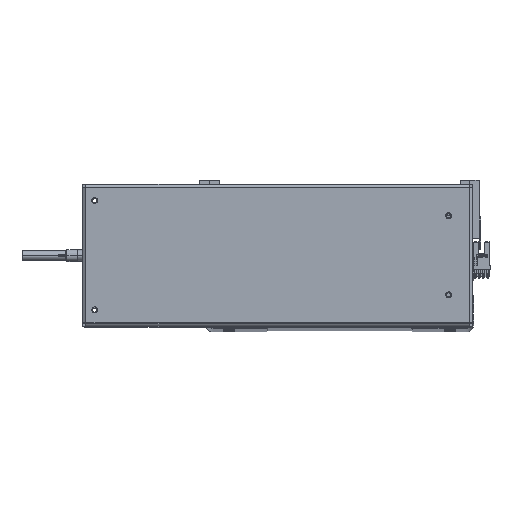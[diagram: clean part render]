
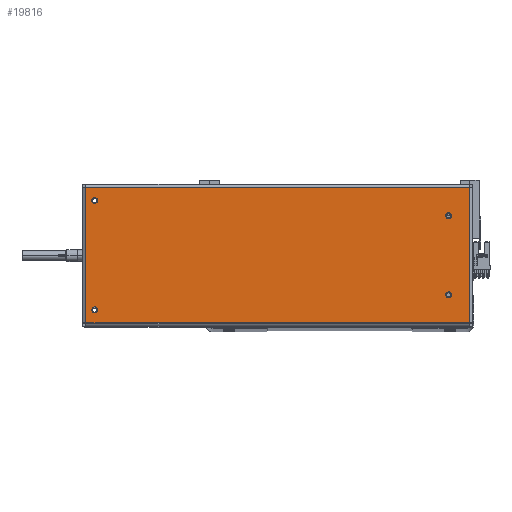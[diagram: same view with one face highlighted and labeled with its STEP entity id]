
A CAD part, top view. The second image highlights one B-rep face of the part: STEP entity #19816.
In plain terms, the highlighted planar face has unit normal (0, 0, 1).
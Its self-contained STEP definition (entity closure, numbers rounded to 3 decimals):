
#72 = VERTEX_POINT ( 'NONE', #17710 ) ;
#101 = EDGE_CURVE ( 'NONE', #24651, #2389, #32990, .T. ) ;
#591 = AXIS2_PLACEMENT_3D ( 'NONE', #16067, #12421, #38647 ) ;
#866 = DIRECTION ( 'NONE',  ( 0., 0., 1. ) ) ;
#1445 = DIRECTION ( 'NONE',  ( 1., 0., 0. ) ) ;
#1488 = CARTESIAN_POINT ( 'NONE',  ( 153., -45., 0. ) ) ;
#1803 = DIRECTION ( 'NONE',  ( 0., 0., 1. ) ) ;
#1862 = CIRCLE ( 'NONE', #19180, 2.5 ) ;
#2151 = AXIS2_PLACEMENT_3D ( 'NONE', #4263, #866, #13654 ) ;
#2389 = VERTEX_POINT ( 'NONE', #21495 ) ;
#3290 = EDGE_CURVE ( 'NONE', #7846, #28780, #4567, .T. ) ;
#3548 = EDGE_CURVE ( 'NONE', #28780, #38012, #34254, .T. ) ;
#4263 = CARTESIAN_POINT ( 'NONE',  ( 150.5, -45., 0. ) ) ;
#4282 = FACE_BOUND ( 'NONE', #22368, .T. ) ;
#4567 = LINE ( 'NONE', #15723, #11565 ) ;
#4802 = DIRECTION ( 'NONE',  ( 0., 0., 1. ) ) ;
#5757 = EDGE_CURVE ( 'NONE', #40851, #72, #26993, .T. ) ;
#5992 = ORIENTED_EDGE ( 'NONE', *, *, #40802, .F. ) ;
#6239 = CIRCLE ( 'NONE', #591, 2.5 ) ;
#6712 = VERTEX_POINT ( 'NONE', #18330 ) ;
#6908 = CIRCLE ( 'NONE', #28540, 2.5 ) ;
#7621 = AXIS2_PLACEMENT_3D ( 'NONE', #11083, #1803, #40228 ) ;
#7654 = CARTESIAN_POINT ( 'NONE',  ( 157.6, -55.6, 0. ) ) ;
#7846 = VERTEX_POINT ( 'NONE', #17519 ) ;
#8118 = CARTESIAN_POINT ( 'NONE',  ( -157.7, -55.6, 0. ) ) ;
#8123 = EDGE_LOOP ( 'NONE', ( #23284, #22532 ) ) ;
#8400 = EDGE_CURVE ( 'NONE', #72, #40851, #38985, .T. ) ;
#9069 = VECTOR ( 'NONE', #26323, 1000. ) ;
#9429 = VERTEX_POINT ( 'NONE', #16497 ) ;
#9837 = AXIS2_PLACEMENT_3D ( 'NONE', #20656, #24042, #1445 ) ;
#10339 = CARTESIAN_POINT ( 'NONE',  ( 148., -45., 0. ) ) ;
#10407 = DIRECTION ( 'NONE',  ( 0., 1., 0. ) ) ;
#10983 = CARTESIAN_POINT ( 'NONE',  ( 157.6, -55.6, 0. ) ) ;
#11083 = CARTESIAN_POINT ( 'NONE',  ( 150.5, -45., 0. ) ) ;
#11398 = VERTEX_POINT ( 'NONE', #25669 ) ;
#11565 = VECTOR ( 'NONE', #15869, 1000. ) ;
#11896 = ORIENTED_EDGE ( 'NONE', *, *, #5757, .F. ) ;
#11959 = CIRCLE ( 'NONE', #2151, 2.5 ) ;
#12421 = DIRECTION ( 'NONE',  ( 0., 0., 1. ) ) ;
#12820 = DIRECTION ( 'NONE',  ( 0., 0., 1. ) ) ;
#13654 = DIRECTION ( 'NONE',  ( 1., 0., 0. ) ) ;
#13813 = EDGE_LOOP ( 'NONE', ( #11896, #24323 ) ) ;
#14321 = VERTEX_POINT ( 'NONE', #1488 ) ;
#14482 = DIRECTION ( 'NONE',  ( 1., 0., 0. ) ) ;
#15723 = CARTESIAN_POINT ( 'NONE',  ( -157.6, 55.6, 0. ) ) ;
#15864 = VECTOR ( 'NONE', #10407, 1000. ) ;
#15869 = DIRECTION ( 'NONE',  ( 0., -1., 0. ) ) ;
#16067 = CARTESIAN_POINT ( 'NONE',  ( -140.5, -32.5, 0. ) ) ;
#16497 = CARTESIAN_POINT ( 'NONE',  ( 157.6, 55.6, 0. ) ) ;
#16796 = EDGE_CURVE ( 'NONE', #2389, #24651, #1862, .T. ) ;
#16862 = FACE_BOUND ( 'NONE', #8123, .T. ) ;
#17109 = EDGE_CURVE ( 'NONE', #18492, #14321, #33531, .T. ) ;
#17519 = CARTESIAN_POINT ( 'NONE',  ( -157.6, 55.6, 0. ) ) ;
#17710 = CARTESIAN_POINT ( 'NONE',  ( -143., 32.5, 0. ) ) ;
#18330 = CARTESIAN_POINT ( 'NONE',  ( -143., -32.5, 0. ) ) ;
#18492 = VERTEX_POINT ( 'NONE', #10339 ) ;
#19151 = CARTESIAN_POINT ( 'NONE',  ( -140.5, -32.5, 0. ) ) ;
#19180 = AXIS2_PLACEMENT_3D ( 'NONE', #38886, #12820, #29232 ) ;
#19542 = PLANE ( 'NONE',  #19848 ) ;
#19816 = ADVANCED_FACE ( 'NONE', ( #16862, #24393, #23365, #4282, #28904 ), #19542, .F. ) ;
#19848 = AXIS2_PLACEMENT_3D ( 'NONE', #35192, #38489, #38627 ) ;
#20656 = CARTESIAN_POINT ( 'NONE',  ( -140.5, 32.5, 0. ) ) ;
#20724 = ORIENTED_EDGE ( 'NONE', *, *, #17109, .F. ) ;
#21495 = CARTESIAN_POINT ( 'NONE',  ( 153., 45., 0. ) ) ;
#22368 = EDGE_LOOP ( 'NONE', ( #34685, #25307 ) ) ;
#22532 = ORIENTED_EDGE ( 'NONE', *, *, #31550, .F. ) ;
#22777 = DIRECTION ( 'NONE',  ( 1., 0., 0. ) ) ;
#22783 = CARTESIAN_POINT ( 'NONE',  ( 148., 45., 0. ) ) ;
#23284 = ORIENTED_EDGE ( 'NONE', *, *, #24489, .F. ) ;
#23365 = FACE_BOUND ( 'NONE', #40915, .T. ) ;
#24042 = DIRECTION ( 'NONE',  ( 0., 0., 1. ) ) ;
#24323 = ORIENTED_EDGE ( 'NONE', *, *, #8400, .F. ) ;
#24352 = LINE ( 'NONE', #10983, #15864 ) ;
#24393 = FACE_BOUND ( 'NONE', #13813, .T. ) ;
#24489 = EDGE_CURVE ( 'NONE', #11398, #6712, #6239, .T. ) ;
#24651 = VERTEX_POINT ( 'NONE', #22783 ) ;
#25269 = AXIS2_PLACEMENT_3D ( 'NONE', #29370, #4802, #14482 ) ;
#25307 = ORIENTED_EDGE ( 'NONE', *, *, #101, .F. ) ;
#25669 = CARTESIAN_POINT ( 'NONE',  ( -138., -32.5, 0. ) ) ;
#26323 = DIRECTION ( 'NONE',  ( -1., 0., 0. ) ) ;
#26993 = CIRCLE ( 'NONE', #9837, 2.5 ) ;
#27114 = ORIENTED_EDGE ( 'NONE', *, *, #34222, .T. ) ;
#28466 = AXIS2_PLACEMENT_3D ( 'NONE', #35005, #28766, #41349 ) ;
#28540 = AXIS2_PLACEMENT_3D ( 'NONE', #19151, #32638, #22777 ) ;
#28766 = DIRECTION ( 'NONE',  ( 0., 0., 1. ) ) ;
#28780 = VERTEX_POINT ( 'NONE', #41285 ) ;
#28827 = ORIENTED_EDGE ( 'NONE', *, *, #3548, .T. ) ;
#28904 = FACE_OUTER_BOUND ( 'NONE', #31180, .T. ) ;
#29232 = DIRECTION ( 'NONE',  ( 1., 0., 0. ) ) ;
#29370 = CARTESIAN_POINT ( 'NONE',  ( 150.5, 45., 0. ) ) ;
#29662 = CARTESIAN_POINT ( 'NONE',  ( -138., 32.5, 0. ) ) ;
#30605 = ORIENTED_EDGE ( 'NONE', *, *, #3290, .T. ) ;
#31180 = EDGE_LOOP ( 'NONE', ( #30605, #28827, #27114, #37946 ) ) ;
#31550 = EDGE_CURVE ( 'NONE', #6712, #11398, #6908, .T. ) ;
#32638 = DIRECTION ( 'NONE',  ( 0., 0., 1. ) ) ;
#32990 = CIRCLE ( 'NONE', #25269, 2.5 ) ;
#33531 = CIRCLE ( 'NONE', #7621, 2.5 ) ;
#34222 = EDGE_CURVE ( 'NONE', #38012, #9429, #24352, .T. ) ;
#34254 = LINE ( 'NONE', #8118, #38788 ) ;
#34685 = ORIENTED_EDGE ( 'NONE', *, *, #16796, .F. ) ;
#35005 = CARTESIAN_POINT ( 'NONE',  ( -140.5, 32.5, 0. ) ) ;
#35192 = CARTESIAN_POINT ( 'NONE',  ( 157.7, 58.5, 0. ) ) ;
#37399 = DIRECTION ( 'NONE',  ( 1., 0., 0. ) ) ;
#37946 = ORIENTED_EDGE ( 'NONE', *, *, #39260, .T. ) ;
#38012 = VERTEX_POINT ( 'NONE', #7654 ) ;
#38489 = DIRECTION ( 'NONE',  ( 0., 0., -1. ) ) ;
#38627 = DIRECTION ( 'NONE',  ( -1., 0., 0. ) ) ;
#38647 = DIRECTION ( 'NONE',  ( 1., 0., 0. ) ) ;
#38788 = VECTOR ( 'NONE', #37399, 1000. ) ;
#38886 = CARTESIAN_POINT ( 'NONE',  ( 150.5, 45., 0. ) ) ;
#38985 = CIRCLE ( 'NONE', #28466, 2.5 ) ;
#39260 = EDGE_CURVE ( 'NONE', #9429, #7846, #40290, .T. ) ;
#39478 = CARTESIAN_POINT ( 'NONE',  ( 157.7, 55.6, 0. ) ) ;
#40228 = DIRECTION ( 'NONE',  ( 1., 0., 0. ) ) ;
#40290 = LINE ( 'NONE', #39478, #9069 ) ;
#40802 = EDGE_CURVE ( 'NONE', #14321, #18492, #11959, .T. ) ;
#40851 = VERTEX_POINT ( 'NONE', #29662 ) ;
#40915 = EDGE_LOOP ( 'NONE', ( #5992, #20724 ) ) ;
#41285 = CARTESIAN_POINT ( 'NONE',  ( -157.6, -55.6, 0. ) ) ;
#41349 = DIRECTION ( 'NONE',  ( 1., 0., 0. ) ) ;
